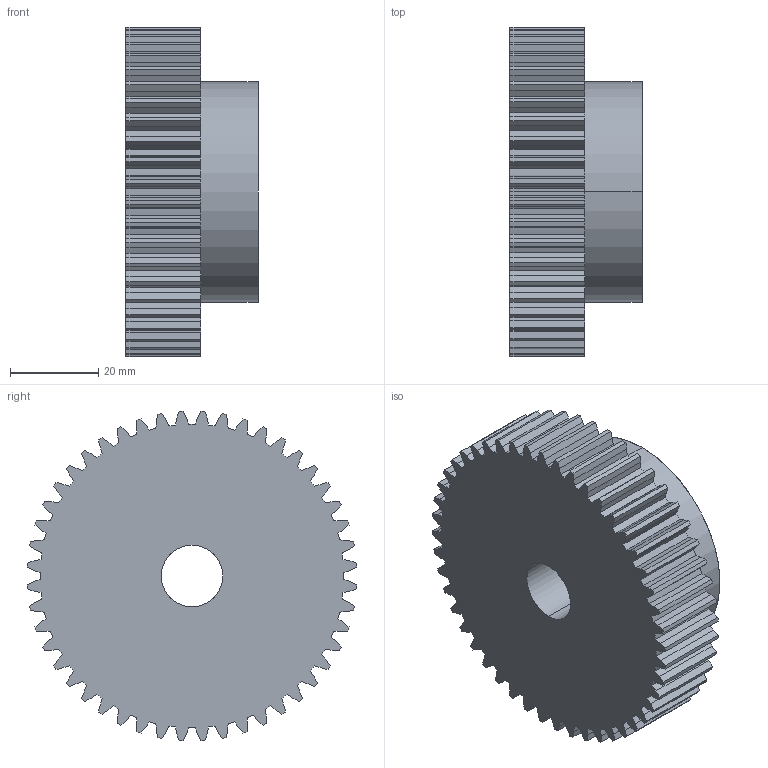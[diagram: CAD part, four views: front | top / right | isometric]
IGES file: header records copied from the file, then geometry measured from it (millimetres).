
Start section: SolidWorks IGES file using analytic representation for surfaces
Global section: file name: C:\Users\Honza\Desktop\Matis (Hotove)\Èelní ozubená kola\PM\MODUL 1,5\PM 27048.IGS; native system: SolidWorks 2010; preprocessor: SolidWorks 2010; author: Honza; date: 130924.132612; units: millimetre
Bounding box: 30 x 74.9 x 74.9 mm (x, y, z)
Surface area: 18383.8 mm2 (no closed solid volume)
Topology: 0 solids, 0 shells, 296 faces, 1943 edges, 1943 vertices
Faces by surface type: bspline 195, revolution 101
